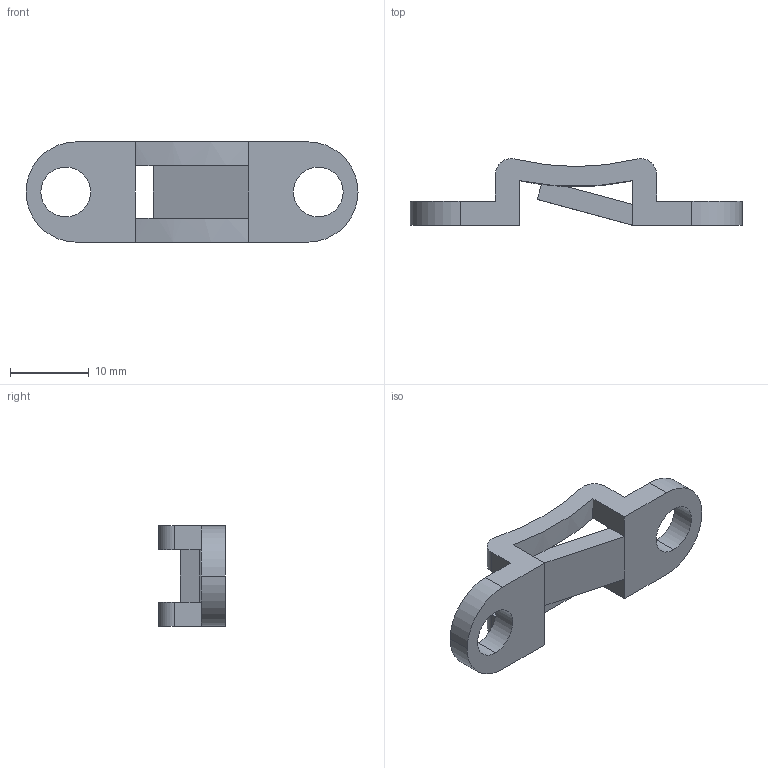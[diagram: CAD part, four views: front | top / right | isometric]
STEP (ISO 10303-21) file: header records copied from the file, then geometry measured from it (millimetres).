
FILE_DESCRIPTION (( 'STEP AP214' ), '1' );
FILE_NAME ('5074_V02_REF_PRT_FEMALE-LOCK_AR-CLIP.STEP', '2026-04-28T15:37:53', ( '' ), ( '' ), 'SwSTEP 2.0', 'SolidWorks 2026', '' );
FILE_SCHEMA (( 'AUTOMOTIVE_DESIGN' ));
Length unit declared in the file: millimetre
Products named in the file (1): 5074_V02_REF_PRT_FEMALE-LOCK_AR-CLIP
Bounding box: 42.06 x 8.43 x 12.7 mm (x, y, z)
Volume: 1394 mm3; surface area: 1673.1 mm2
Topology: 1 solids, 1 shells, 35 faces, 111 edges, 72 vertices
Faces by surface type: plane 19, cylinder 16
Entity records: 1276 total; most frequent: ORIENTED_EDGE 222, DIRECTION 219, CARTESIAN_POINT 219, EDGE_CURVE 111, VECTOR 75, LINE 75, AXIS2_PLACEMENT_3D 72, VERTEX_POINT 72
